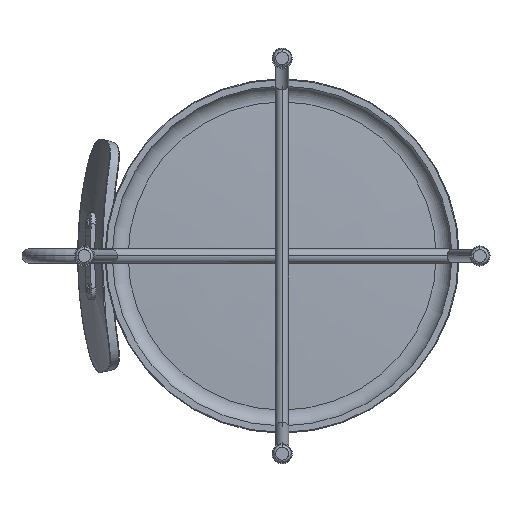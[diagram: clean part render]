
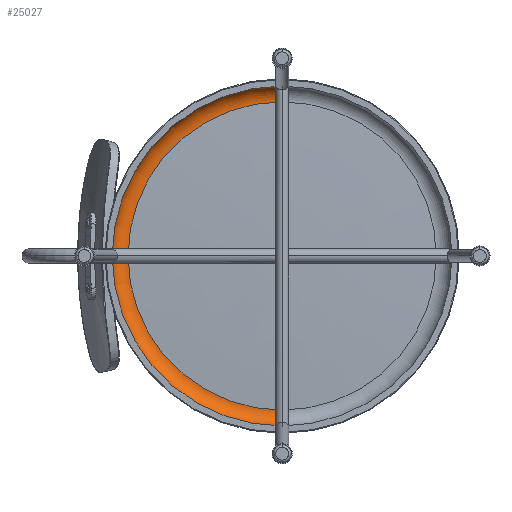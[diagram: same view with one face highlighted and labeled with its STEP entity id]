
A CAD part, front view. The second image highlights one B-rep face of the part: STEP entity #25027.
In plain terms, the highlighted toroidal (fillet/blend) face has major radius 168.241 mm and minor radius 17 mm.
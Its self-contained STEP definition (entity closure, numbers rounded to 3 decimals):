
#221 = CIRCLE ( 'NONE', #21476, 184.5 ) ;
#1232 = DIRECTION ( 'NONE',  ( 0., 0., 1. ) ) ;
#1233 = DIRECTION ( 'NONE',  ( 0., 0., 1. ) ) ;
#2097 = VERTEX_POINT ( 'NONE', #20963 ) ;
#2244 = DIRECTION ( 'NONE',  ( 1., 0., 0. ) ) ;
#2819 = EDGE_CURVE ( 'NONE', #13223, #2097, #24155, .T. ) ;
#2853 = CIRCLE ( 'NONE', #21935, 17. ) ;
#3002 = DIRECTION ( 'NONE',  ( -1., 0., 0. ) ) ;
#3130 = CARTESIAN_POINT ( 'NONE',  ( 0., -17.024, 168.241 ) ) ;
#4585 = VERTEX_POINT ( 'NONE', #16856 ) ;
#6004 = AXIS2_PLACEMENT_3D ( 'NONE', #25053, #24646, #8215 ) ;
#7744 = CARTESIAN_POINT ( 'NONE',  ( 0., -0.048, 0. ) ) ;
#8215 = DIRECTION ( 'NONE',  ( 0., 0., 1. ) ) ;
#8630 = CIRCLE ( 'NONE', #17314, 167.332 ) ;
#8838 = DIRECTION ( 'NONE',  ( 0., 0., 1. ) ) ;
#9650 = CARTESIAN_POINT ( 'NONE',  ( 0., -0.048, -167.332 ) ) ;
#10439 = EDGE_CURVE ( 'NONE', #4585, #13223, #221, .T. ) ;
#10614 = CARTESIAN_POINT ( 'NONE',  ( 0., -12.058, 184.5 ) ) ;
#12959 = TOROIDAL_SURFACE ( 'NONE', #6004, 168.241, 17. ) ;
#13223 = VERTEX_POINT ( 'NONE', #10614 ) ;
#13744 = ORIENTED_EDGE ( 'NONE', *, *, #26068, .T. ) ;
#14587 = EDGE_CURVE ( 'NONE', #4585, #21658, #2853, .T. ) ;
#15751 = ORIENTED_EDGE ( 'NONE', *, *, #2819, .F. ) ;
#16641 = FACE_OUTER_BOUND ( 'NONE', #23086, .T. ) ;
#16655 = DIRECTION ( 'NONE',  ( 0., 0., -1. ) ) ;
#16856 = CARTESIAN_POINT ( 'NONE',  ( 0., -12.058, -184.5 ) ) ;
#17314 = AXIS2_PLACEMENT_3D ( 'NONE', #7744, #19840, #1233 ) ;
#19829 = AXIS2_PLACEMENT_3D ( 'NONE', #3130, #3002, #1232 ) ;
#19840 = DIRECTION ( 'NONE',  ( 0., 1., 0. ) ) ;
#20963 = CARTESIAN_POINT ( 'NONE',  ( 0., -0.048, 167.332 ) ) ;
#21472 = DIRECTION ( 'NONE',  ( 0., 1., 0. ) ) ;
#21476 = AXIS2_PLACEMENT_3D ( 'NONE', #25553, #21472, #8838 ) ;
#21658 = VERTEX_POINT ( 'NONE', #9650 ) ;
#21935 = AXIS2_PLACEMENT_3D ( 'NONE', #25202, #2244, #16655 ) ;
#22314 = ORIENTED_EDGE ( 'NONE', *, *, #14587, .T. ) ;
#23086 = EDGE_LOOP ( 'NONE', ( #26271, #22314, #13744, #15751 ) ) ;
#24155 = CIRCLE ( 'NONE', #19829, 17. ) ;
#24646 = DIRECTION ( 'NONE',  ( 0., 1., 0. ) ) ;
#25027 = ADVANCED_FACE ( 'NONE', ( #16641 ), #12959, .F. ) ;
#25053 = CARTESIAN_POINT ( 'NONE',  ( 0., -17.024, 0. ) ) ;
#25202 = CARTESIAN_POINT ( 'NONE',  ( 0., -17.024, -168.241 ) ) ;
#25553 = CARTESIAN_POINT ( 'NONE',  ( 0., -12.058, 0. ) ) ;
#26068 = EDGE_CURVE ( 'NONE', #21658, #2097, #8630, .T. ) ;
#26271 = ORIENTED_EDGE ( 'NONE', *, *, #10439, .F. ) ;
